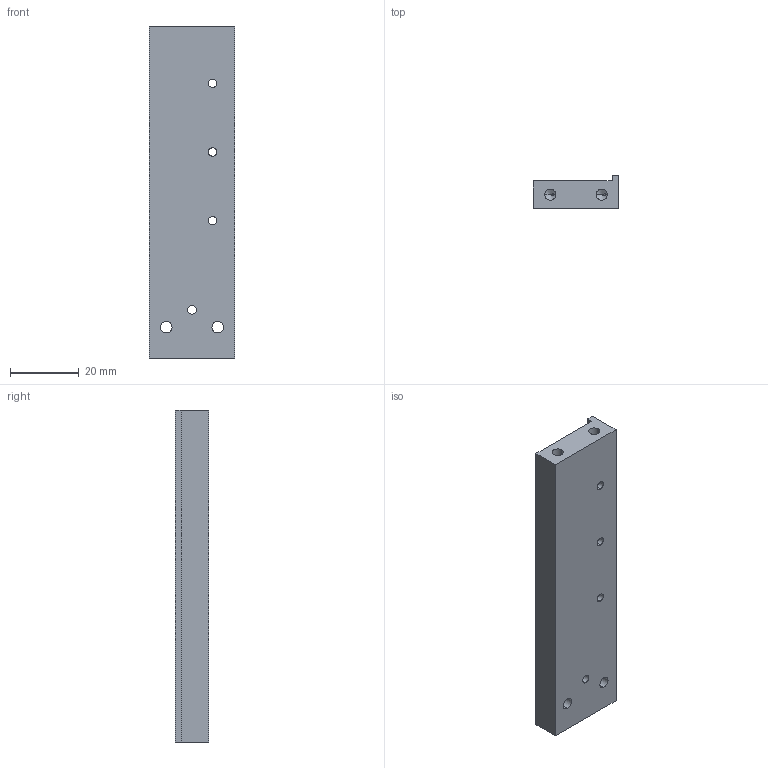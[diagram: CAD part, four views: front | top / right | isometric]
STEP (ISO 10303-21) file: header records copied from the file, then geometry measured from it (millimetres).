
FILE_DESCRIPTION (( 'STEP AP214' ), '1' );
FILE_NAME ('GZ21.10_V1弹性底板.STEP', '2021-02-26T06:35:58', ( '微软中国' ), ( 'Microsoft' ), 'SwSTEP 2.0', 'SolidWorks 2017', '' );
FILE_SCHEMA (( 'AUTOMOTIVE_DESIGN' ));
Length unit declared in the file: millimetre
Products named in the file (1): GZ21.10_V1粟俶菁啣
Bounding box: 25 x 9.7 x 96.7 mm (x, y, z)
Volume: 19044.5 mm3; surface area: 7754.8 mm2
Topology: 1 solids, 1 shells, 34 faces, 88 edges, 55 vertices
Faces by surface type: cylinder 20, plane 10, cone 4
Entity records: 1193 total; most frequent: DIRECTION 195, CARTESIAN_POINT 174, ORIENTED_EDGE 168, EDGE_CURVE 84, AXIS2_PLACEMENT_3D 76, VERTEX_POINT 55, EDGE_LOOP 49, LINE 43
